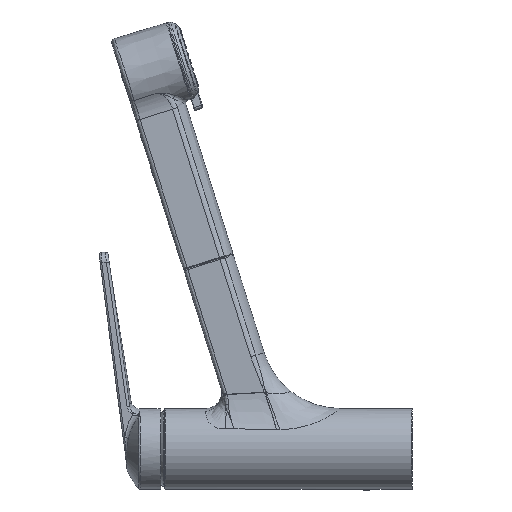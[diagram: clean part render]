
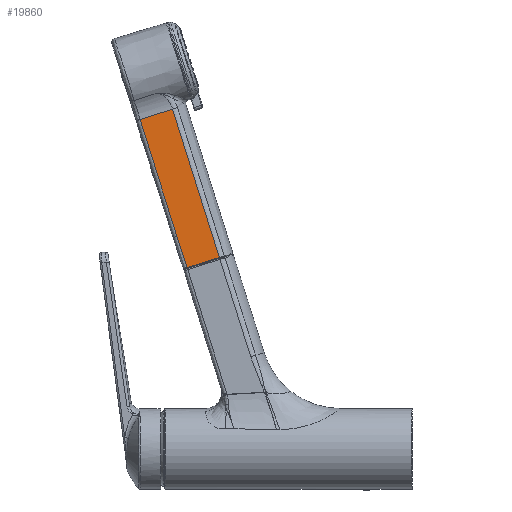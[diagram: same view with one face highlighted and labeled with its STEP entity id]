
A CAD part, left-side view. The second image highlights one B-rep face of the part: STEP entity #19860.
In plain terms, the highlighted planar face has unit normal (-1, -0.008, 0.003).
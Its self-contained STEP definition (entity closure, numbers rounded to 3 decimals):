
#1900=DIRECTION('',(0.009,-0.954,0.301));
#1901=VECTOR('',#1900,20.282);
#1902=CARTESIAN_POINT('',(-15.48,135.128,108.798));
#1903=LINE('',#1902,#1901);
#2125=DIRECTION('',(0.,0.301,0.954));
#2126=VECTOR('',#2125,93.257);
#2127=CARTESIAN_POINT('',(-15.303,115.786,114.897));
#2128=LINE('',#2127,#2126);
#2129=CARTESIAN_POINT('',(-15.48,135.128,108.798));
#2130=CARTESIAN_POINT('',(-15.48,135.337,109.43));
#2131=CARTESIAN_POINT('',(-15.48,136.142,111.854));
#2132=CARTESIAN_POINT('',(-15.481,137.558,116.124));
#2133=CARTESIAN_POINT('',(-15.481,139.4,121.731));
#2134=CARTESIAN_POINT('',(-15.482,140.625,125.552));
#2135=CARTESIAN_POINT('',(-15.482,141.247,127.525));
#2137=DIRECTION('',(0.,0.301,0.954));
#2138=VECTOR('',#2137,73.497);
#2139=CARTESIAN_POINT('',(-15.482,141.247,127.525));
#2140=LINE('',#2139,#2138);
#2604=DIRECTION('',(-0.009,0.953,-0.303));
#2605=VECTOR('',#2604,20.486);
#2606=CARTESIAN_POINT('',(-15.303,143.829,203.838));
#2607=LINE('',#2606,#2605);
#14992=CARTESIAN_POINT('',(-15.303,115.786,
114.897));
#14993=VERTEX_POINT('',#14992);
#14994=CARTESIAN_POINT('',(-15.48,135.128,
108.798));
#14995=VERTEX_POINT('',#14994);
#15017=CARTESIAN_POINT('',(-15.303,143.829,
203.838));
#15018=VERTEX_POINT('',#15017);
#15019=VERTEX_POINT('',#2135);
#15020=CARTESIAN_POINT('',(-15.482,163.348,
197.621));
#15021=VERTEX_POINT('',#15020);
#19845=CARTESIAN_POINT('',(-15.5,134.546,99.252));
#19846=DIRECTION('',(-1.,-0.008,0.003));
#19847=DIRECTION('',(0.,0.301,0.954));
#19848=AXIS2_PLACEMENT_3D('',#19845,#19846,#19847);
#19849=PLANE('',#19848);
#19850=ORIENTED_EDGE('',*,*,#19836,.F.);
#19851=ORIENTED_EDGE('',*,*,#19659,.F.);
#19853=ORIENTED_EDGE('',*,*,#19852,.T.);
#19855=ORIENTED_EDGE('',*,*,#19854,.T.);
#19857=ORIENTED_EDGE('',*,*,#19856,.F.);
#19858=EDGE_LOOP('',(#19850,#19851,#19853,#19855,#19857));
#19859=FACE_OUTER_BOUND('',#19858,.F.);
#19860=ADVANCED_FACE('',(#19859),#19849,.T.);
#2136=B_SPLINE_CURVE_WITH_KNOTS('',3,(#2129,#2130,#2131,#2132,#2133,#2134,
#2135),.UNSPECIFIED.,.F.,.F.,(4,1,1,1,4),(0.,0.101,
0.389,0.685,1.),.UNSPECIFIED.);
#19659=EDGE_CURVE('',#14995,#14993,#1903,.T.);
#19836=EDGE_CURVE('',#14993,#15018,#2128,.T.);
#19852=EDGE_CURVE('',#14995,#15019,#2136,.T.);
#19854=EDGE_CURVE('',#15019,#15021,#2140,.T.);
#19856=EDGE_CURVE('',#15018,#15021,#2607,.T.);
